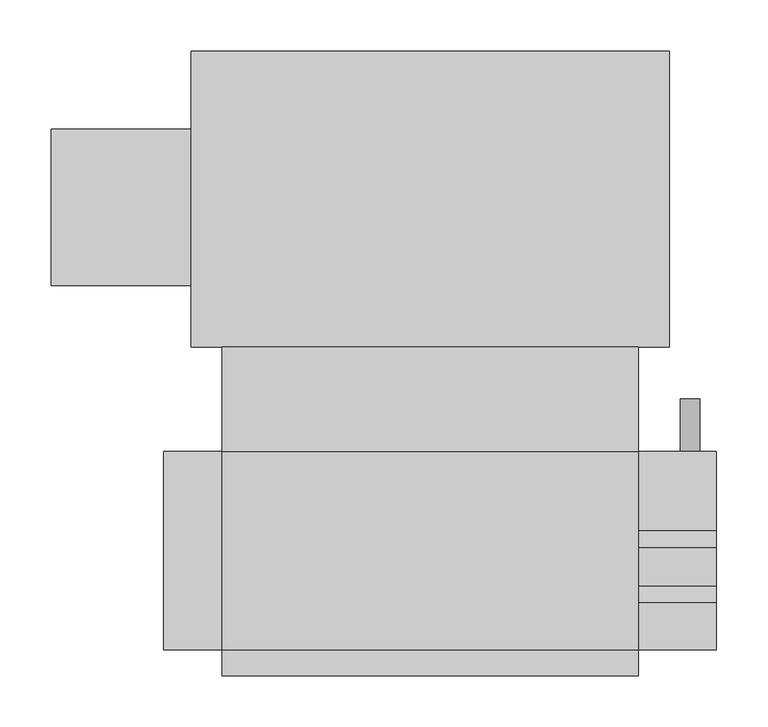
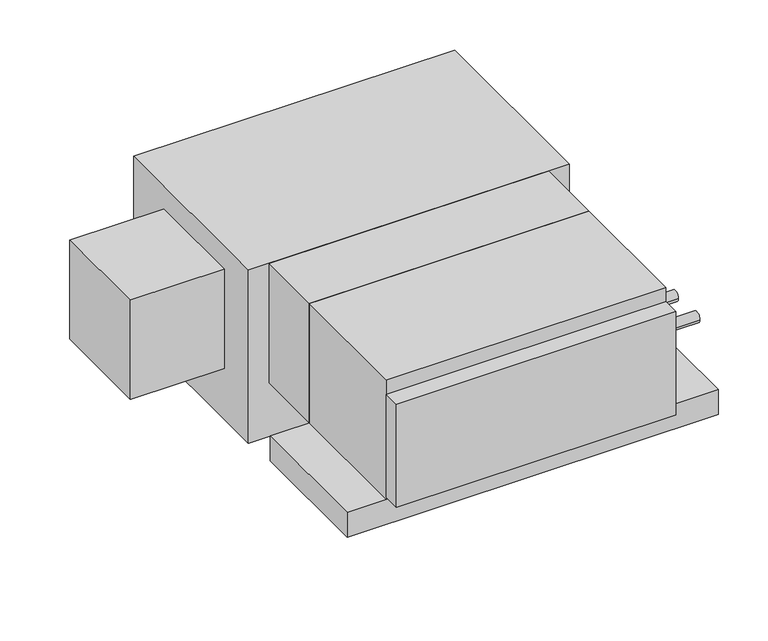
"""IFC4 building model written with IfcOpenShell, lengths in millimetres: proxy geometry, Concealed_Horizontal_Fan_Coil_Unit_With_Plenum_-_42CEA_-_CARRIER_-_2-Pipe_Cool-EHeat_RH_2022 : Size 02 - 277v/60Hz/1Ph - 4 Row 2.0kW."""

import ifcopenshell
import ifcopenshell.guid

model = None  # the IFC model being written
_history = None  # IfcOwnerHistory: only IFC2X3 demands one
_inside = {}  # id of a spatial element -> (the spatial element, [elements in it])
_under = {}  # id of a project, library or spatial element -> (it, [spatial elements below it])
_declared = {}  # id of a project -> (the project, [libraries it declares])
_typed = {}  # id of a type object -> (the type object, [elements of that type])
_made_of = {}  # id of a material, layer set ... -> (it, [elements and type objects made of it])


def new_model(schema):
    """Start an empty IFC model of exactly this schema.

    Asked for "IFC4X3", IfcOpenShell would pick the latest addendum, in which some entities
    have other attributes; the version numbers below select the first issue.
    IFC2X3 requires an IfcOwnerHistory on every rooted entity: one is made here for all.
    """
    global model, _history
    if schema == "IFC4X3":
        model = ifcopenshell.file(schema_version=(4, 3, 0, 0))
    else:
        model = ifcopenshell.file(schema=schema)
    _inside.clear()
    _under.clear()
    _declared.clear()
    _typed.clear()
    _made_of.clear()
    _history = None
    if model.schema == "IFC2X3":
        org = make("IfcOrganization", Name="unknown")
        user = make(
            "IfcPersonAndOrganization",
            ThePerson=make("IfcPerson", FamilyName="unknown"),
            TheOrganization=org,
        )
        app = make(
            "IfcApplication",
            ApplicationDeveloper=org,
            Version="unknown",
            ApplicationFullName="unknown",
            ApplicationIdentifier="unknown",
        )
        _history = make(
            "IfcOwnerHistory",
            OwningUser=user,
            OwningApplication=app,
            ChangeAction="ADDED",
            CreationDate=0,
        )
    return model


def make(cls, **values):
    """One entity of the class cls with the attributes given. An attribute that is None is left unset."""
    return model.create_entity(
        cls, **{name: value for name, value in values.items() if value is not None}
    )


def rooted(cls, **values):
    """An entity with a GlobalId (a new one), such as an element, a storey or a relation."""
    return make(cls, GlobalId=ifcopenshell.guid.new(), OwnerHistory=_history, **values)


def si_unit(unit_type, name, prefix=None):
    """IfcSIUnit, for example si_unit("LENGTHUNIT", "METRE", prefix="MILLI")."""
    return make("IfcSIUnit", UnitType=unit_type, Prefix=prefix, Name=name)


def assignment(units):
    """IfcUnitAssignment: the units of a project."""
    return None if units is None else make("IfcUnitAssignment", Units=units)


def point(xyz):
    """IfcCartesianPoint."""
    return None if xyz is None else make("IfcCartesianPoint", Coordinates=xyz)


def direction(xyz):
    """IfcDirection."""
    return None if xyz is None else make("IfcDirection", DirectionRatios=xyz)


def frame(location, z_axis=None, x_axis=None):
    """IfcAxis2Placement3D, a coordinate frame: its origin and axes. An axis left out is left unset."""
    return make(
        "IfcAxis2Placement3D",
        Location=point(location),
        Axis=direction(z_axis),
        RefDirection=direction(x_axis),
    )


def frame_2d(location, x_axis=None):
    """IfcAxis2Placement2D, a coordinate frame in the plane: its origin and x axis."""
    return make(
        "IfcAxis2Placement2D", Location=point(location), RefDirection=direction(x_axis)
    )


def origin():
    """The frame at (0, 0, 0) with its axes left unset."""
    return frame((0.0, 0.0, 0.0))


def place(relative_to, where):
    """IfcLocalPlacement: puts the frame where relative to a parent placement (None: the world)."""
    return make(
        "IfcLocalPlacement", PlacementRelTo=relative_to, RelativePlacement=where
    )


def context(
    kind, dimensions, precision=None, world=None, true_north=None, identifier=None
):
    """IfcGeometricRepresentationContext, for example the 3D "Model" context."""
    return make(
        "IfcGeometricRepresentationContext",
        ContextIdentifier=identifier,
        ContextType=kind,
        CoordinateSpaceDimension=dimensions,
        Precision=precision,
        WorldCoordinateSystem=world,
        TrueNorth=true_north,
    )


def project(units=None, contexts=None):
    """IfcProject with its units and contexts."""
    return rooted(
        "IfcProject",
        Name="project",
        RepresentationContexts=contexts,
        UnitsInContext=assignment(units),
    )


def spatial(cls, under=None, at=None, **own):
    """A site, building, storey or space (cls), placed at a placement, below another one or the project."""
    s = rooted(cls, ObjectPlacement=at, **own)
    if under is not None:
        _under.setdefault(under.id(), (under, []))[1].append(s)
    return s


def polyline(points):
    """IfcPolyline through the points."""
    return make("IfcPolyline", Points=[point(p) for p in points])


def circle_curve(where, radius):
    """IfcCircle in the frame where."""
    return make("IfcCircle", Position=where, Radius=radius)


def trimmed(basis, trim1, trim2, sense, master):
    """IfcTrimmedCurve: the piece of a basis curve between two trims."""
    return make(
        "IfcTrimmedCurve",
        BasisCurve=basis,
        Trim1=trim1,
        Trim2=trim2,
        SenseAgreement=sense,
        MasterRepresentation=master,
    )


def segment(curve, same_sense, transition):
    """IfcCompositeCurveSegment."""
    return make(
        "IfcCompositeCurveSegment",
        Transition=transition,
        SameSense=same_sense,
        ParentCurve=curve,
    )


def composite_curve(segments, self_intersect=None):
    """IfcCompositeCurve: segments joined end to end."""
    return make("IfcCompositeCurve", Segments=segments, SelfIntersect=self_intersect)


def outline(outer, holes=None, kind="AREA"):
    """IfcArbitraryClosedProfileDef: a profile drawn as a closed curve; with holes, ...WithVoids."""
    if holes is None:
        return make("IfcArbitraryClosedProfileDef", ProfileType=kind, OuterCurve=outer)
    return make(
        "IfcArbitraryProfileDefWithVoids",
        ProfileType=kind,
        OuterCurve=outer,
        InnerCurves=holes,
    )


def extrude(swept, where, along, depth):
    """IfcExtrudedAreaSolid: the profile swept, set in the frame where, extruded along a direction by depth."""
    return make(
        "IfcExtrudedAreaSolid",
        SweptArea=swept,
        Position=where,
        ExtrudedDirection=direction(along),
        Depth=depth,
    )


def shape(context_of_items, identifier, shape_type, items):
    """IfcShapeRepresentation: the items that make up one representation, for example the "Body"."""
    return make(
        "IfcShapeRepresentation",
        ContextOfItems=context_of_items,
        RepresentationIdentifier=identifier,
        RepresentationType=shape_type,
        Items=items,
    )


def source(mapping_origin, context_of_items, identifier, shape_type, items):
    """IfcRepresentationMap: a shape defined once, which mapped items show again and again."""
    return make(
        "IfcRepresentationMap",
        MappingOrigin=mapping_origin,
        MappedRepresentation=shape(context_of_items, identifier, shape_type, items),
    )


def transform(
    local_origin,
    x_axis=None,
    y_axis=None,
    z_axis=None,
    scale=None,
    scale2=None,
    scale3=None,
    uniform=True,
):
    """IfcCartesianTransformationOperator3D, or its non-uniform kind. x_axis, y_axis, z_axis: its Axis1, 2, 3."""
    if uniform:
        return make(
            "IfcCartesianTransformationOperator3D",
            Axis1=direction(x_axis),
            Axis2=direction(y_axis),
            LocalOrigin=point(local_origin),
            Scale=scale,
            Axis3=direction(z_axis),
        )
    return make(
        "IfcCartesianTransformationOperator3DnonUniform",
        Axis1=direction(x_axis),
        Axis2=direction(y_axis),
        LocalOrigin=point(local_origin),
        Scale=scale,
        Axis3=direction(z_axis),
        Scale2=scale2,
        Scale3=scale3,
    )


def mapped(mapping_source, mapping_target):
    """IfcMappedItem: shows the shape of a source again, moved by a transform."""
    return make(
        "IfcMappedItem", MappingSource=mapping_source, MappingTarget=mapping_target
    )


def made_of(thing, what):
    """Note that an element or type object is made of a material, layer set ...; save() writes the relation."""
    if what is not None:
        _made_of.setdefault(what.id(), (what, []))[1].append(thing)
    return thing


def element(
    cls,
    number,
    at=None,
    inside=None,
    cuts=None,
    type_object=None,
    material=None,
    context=None,
    identifier="Body",
    shape_type=None,
    held_by="IfcProductDefinitionShape",
    body=None,
    shapes=None,
    **own,
):
    """One element of the class cls, such as IfcWall. Its Tag is "e" and its number.

    at: its placement. inside: the storey or other place that contains it. cuts: it is an
    opening in that element (IfcRelVoidsElement). A single representation is given by context,
    identifier, shape_type and body (its items); several are given by shapes. held_by: the class
    of the entity that holds the representations. save() writes the other relations.
    """
    e = rooted(cls, Tag="e%d" % number, ObjectPlacement=at, **own)
    if body is not None:
        shapes = [shape(context, identifier, shape_type, body)]
    if shapes is not None:
        e.Representation = make(held_by, Representations=shapes)
    if inside is not None:
        _inside.setdefault(inside.id(), (inside, []))[1].append(e)
    if cuts is not None:
        rooted(
            "IfcRelVoidsElement", RelatingBuildingElement=cuts, RelatedOpeningElement=e
        )
    if type_object is not None:
        _typed.setdefault(type_object.id(), (type_object, []))[1].append(e)
    return made_of(e, material)


def aggregate(whole, parts):
    """IfcRelAggregates: a whole, such as a stair, and the parts it consists of."""
    return rooted("IfcRelAggregates", RelatingObject=whole, RelatedObjects=parts)


def save(model, path):
    """Write the relations noted so far, then the file.

    IfcRelAggregates (storeys below a building ...), IfcRelContainedInSpatialStructure (elements
    in a storey), IfcRelDefinesByType, IfcRelAssociatesMaterial and IfcRelDeclares: one each for
    every whole, place, type object, material and project.
    """
    for whole, parts in _under.values():
        aggregate(whole, parts)
    for where, things in _inside.values():
        rooted(
            "IfcRelContainedInSpatialStructure",
            RelatedElements=things,
            RelatingStructure=where,
        )
    for kind, things in _typed.values():
        rooted("IfcRelDefinesByType", RelatedObjects=things, RelatingType=kind)
    for what, things in _made_of.values():
        rooted("IfcRelAssociatesMaterial", RelatedObjects=things, RelatingMaterial=what)
    for by, libraries in _declared.values():
        rooted("IfcRelDeclares", RelatingContext=by, RelatedDefinitions=libraries)
    model.write(path)


def mechanical_equipment_2c58ff9c(model_context):
    return source(origin(), model_context, "Body", "SweptSolid", [
        extrude(outline(composite_curve([segment(trimmed(circle_curve(frame_2d((-280.9875, -104.775)), 7.9375), [point((-273.05, -104.775))], [point((-288.925, -104.775))], False, "CARTESIAN"), True, "CONTINUOUS"), segment(trimmed(circle_curve(frame_2d((-280.9875, -104.775)), 7.9375), [point((-288.925, -104.775))], [point((-273.05, -104.775))], False, "CARTESIAN"), True, "CONTINUOUS")], self_intersect=False)), frame((355.6, 0.0, 0.0), z_axis=(1.0, 0.0, 0.0), x_axis=(0.0, 1.0, 0.0)), (0.0, 0.0, 1.0), 76.2),
        extrude(outline(composite_curve([segment(trimmed(circle_curve(frame_2d((-227.0125, -104.775)), 7.9375), [point((-219.075, -104.775))], [point((-234.95, -104.775))], False, "CARTESIAN"), True, "CONTINUOUS"), segment(trimmed(circle_curve(frame_2d((-227.0125, -104.775)), 7.9375), [point((-234.95, -104.775))], [point((-219.075, -104.775))], False, "CARTESIAN"), True, "CONTINUOUS")], self_intersect=False)), frame((355.6, 0.0, 0.0), z_axis=(1.0, 0.0, 0.0), x_axis=(0.0, 1.0, 0.0)), (0.0, 0.0, 1.0), 76.2),
        extrude(outline(composite_curve([segment(trimmed(circle_curve(frame_2d((-209.55, 406.4)), 9.525), [point((-209.55, 396.875))], [point((-209.55, 415.925))], False, "CARTESIAN"), True, "CONTINUOUS"), segment(trimmed(circle_curve(frame_2d((-209.55, 406.4)), 9.525), [point((-209.55, 415.925))], [point((-209.55, 396.875))], False, "CARTESIAN"), True, "CONTINUOUS")], self_intersect=False)), frame((0.0, -141.2875, 0.0), z_axis=(0.0, 1.0, 0.0), x_axis=(0.0, 0.0, 1.0)), (0.0, 0.0, 1.0), 50.8),
        extrude(outline(polyline([(-50.8, -39.6875), (355.6, -39.6875), (355.6, -141.2875), (-50.8, -141.2875), (-50.8, -39.6875)])), frame((0.0, 0.0, -184.15), z_axis=(0.0, 0.0, 1.0), x_axis=(1.0, 0.0, 0.0)), (0.0, 0.0, 1.0), 184.15),
        extrude(outline(polyline([(355.6, -360.3625), (-50.8, -360.3625), (-50.8, -334.9625), (355.6, -334.9625), (355.6, -360.3625)])), frame((0.0, 0.0, -180.975), z_axis=(0.0, 0.0, 1.0), x_axis=(1.0, 0.0, 0.0)), (0.0, 0.0, 1.0), 158.75),
        extrude(outline(polyline([(-217.4875, 20.6375), (-217.4875, 173.0375), (-80.9625, 173.0375), (-80.9625, 20.6375), (-217.4875, 20.6375)])), frame((0.0, 0.0, -187.325), z_axis=(0.0, 0.0, 1.0), x_axis=(1.0, 0.0, 0.0)), (0.0, 0.0, 1.0), 152.4),
        extrude(outline(polyline([(-80.9625, 249.2375), (385.7625, 249.2375), (385.7625, -39.6875), (-80.9625, -39.6875), (-80.9625, 249.2375)])), frame((0.0, 0.0, -266.7), z_axis=(0.0, 0.0, 1.0), x_axis=(1.0, 0.0, 0.0)), (0.0, 0.0, 1.0), 266.7),
        extrude(outline(polyline([(355.6, -141.2875), (355.6, -334.9625), (-50.8, -334.9625), (-50.8, -141.2875), (355.6, -141.2875)])), frame((0.0, 0.0, -184.15), z_axis=(0.0, 0.0, 1.0), x_axis=(1.0, 0.0, 0.0)), (0.0, 0.0, 1.0), 184.15),
        extrude(outline(polyline([(431.8, -141.2875), (431.8, -334.9625), (-107.95, -334.9625), (-107.95, -141.2875), (431.8, -141.2875)])), frame((0.0, 0.0, -222.25), z_axis=(0.0, 0.0, 1.0), x_axis=(1.0, 0.0, 0.0)), (0.0, 0.0, 1.0), 38.1),
    ])


if __name__ == "__main__":
    model = new_model("IFC4")
    model_context = context("Model", 3, world=origin())
    ifc_project = project(units=[si_unit("LENGTHUNIT", "METRE", prefix="MILLI")], contexts=[model_context])
    site = spatial("IfcSite", under=ifc_project)
    building = spatial("IfcBuilding", under=site)
    placement = place(None, origin())
    mechanical_equipment_shape = mechanical_equipment_2c58ff9c(model_context)
    element("IfcBuildingElementProxy", 1, Name="Concealed_Horizontal_Fan_Coil_Unit_With_Plenum_-_42CEA_-_CARRIER_-_2-Pipe_Cool-EHeat_RH_2022 : Size 02 - 277v/60Hz/1Ph - 4 Row 2.0kW", ObjectType="Concealed_Horizontal_Fan_Coil_Unit_With_Plenum_-_42CEA_-_CARRIER_-_2-Pipe_Cool-EHeat_RH_2022 : Size 02 - 277v/60Hz/1Ph - 4 Row 2.0kW", at=placement, inside=building, context=model_context, shape_type="MappedRepresentation", body=[
        mapped(mechanical_equipment_shape, transform((0.0, 0.0, 0.0), x_axis=(1.0, 0.0, 0.0), y_axis=(0.0, 1.0, 0.0), z_axis=(0.0, 0.0, 1.0))),
    ])
    save(model, "model.ifc")
